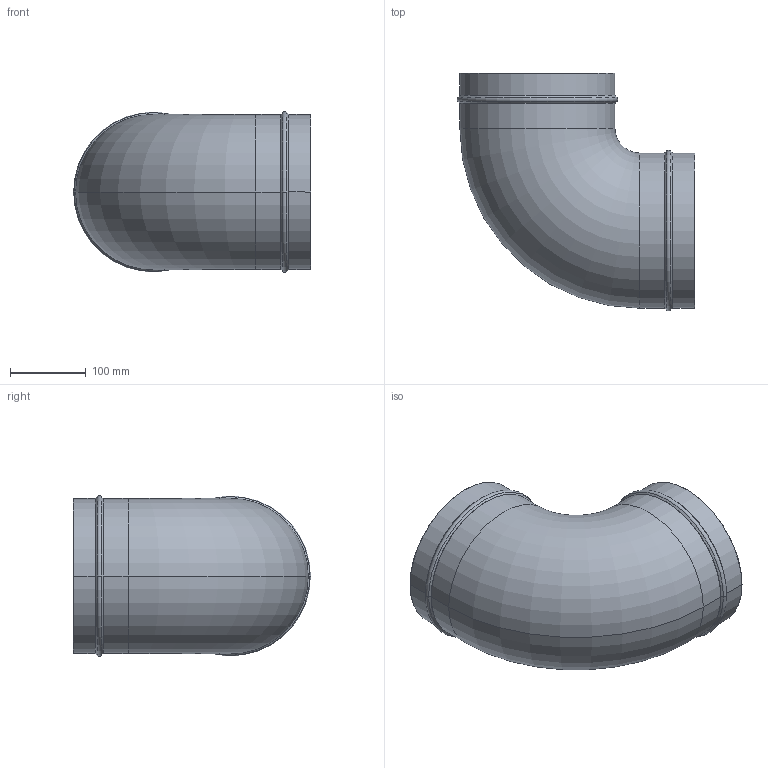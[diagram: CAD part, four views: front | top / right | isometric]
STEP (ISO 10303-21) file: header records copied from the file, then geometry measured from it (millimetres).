
FILE_DESCRIPTION((''),'2;1');
FILE_NAME('2012A00300','2017-05-09T',('Administrator'),(''),'PRO/ENGINEER BY PARAMETRIC TECHNOLOGY CORPORATION, 2009360','PRO/ENGINEER BY PARAMETRIC TECHNOLOGY CORPORATION, 2009360','');
FILE_SCHEMA(('AUTOMOTIVE_DESIGN_CC2 { 1 2 10303 214 -1 1 5 2 }'));
Length unit declared in the file: millimetre
Products named in the file (1): 2012A00300
Bounding box: 313.28 x 313.28 x 211.57 mm (x, y, z)
Volume: 1366769.4 mm3; surface area: 456164.5 mm2
Topology: 1 solids, 1 shells, 42 faces, 84 edges, 44 vertices
Faces by surface type: torus 20, cylinder 12, cone 8, plane 2
Entity records: 1371 total; most frequent: DIRECTION 232, CARTESIAN_POINT 170, ORIENTED_EDGE 168, AXIS2_PLACEMENT_3D 106, PRESENTATION_STYLE_ASSIGNMENT 85, STYLED_ITEM 85, CURVE_STYLE 84, EDGE_CURVE 84
